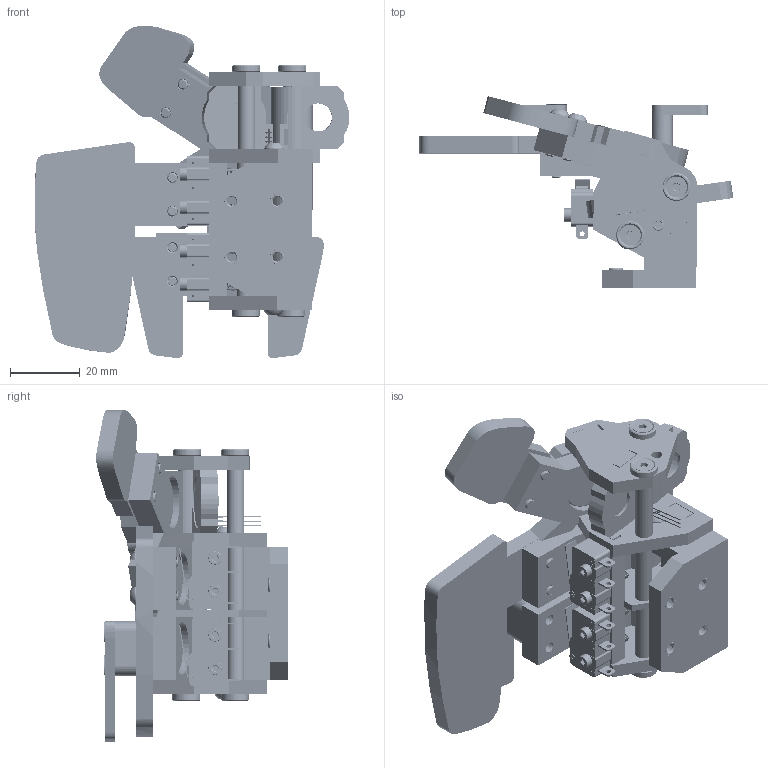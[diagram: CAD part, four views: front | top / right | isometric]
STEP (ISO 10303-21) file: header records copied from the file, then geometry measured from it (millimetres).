
FILE_DESCRIPTION(/* description */ (''),/* implementation_level */ '2;1');
FILE_NAME(/* name */ 'Right Shifter Clutch Assembly.step',/* time_stamp */ '2025-12-14T01:06:27Z',/* author */ (''),/* organization */ (''),/* preprocessor_version */ 'ST-DEVELOPER v20.1',/* originating_system */ 'Autodesk Translation Framework v14.21.0.0',/* authorisation */ '');
FILE_SCHEMA (('AUTOMOTIVE_DESIGN { 1 0 10303 214 3 1 1 }'));
Products named in the file (40): Right Shifter Clutch Assembly; Printed Parts; MPM_ShifterCover; V15_FlatMount; MPM_ShifterDivider; MPM_ShifterMagnetBracket; MPM_ShifterArm; V15_InternalSide; V15_SwitchPlate; MPM_ClutchMagnetBracket; V15_ClutchArm; MPM_ClutchMagnetAndSensorBracket; V15_ClutchCover; Upper Paddle; Upshift Paddle; Clutch Paddle; Hardware; M3x50mm Countersunk Screw; 92125A151_18-8 Stainless Steel Hex Drive Flat Head Screw; M3 18mm Female Standoff; M2x16mm Socket Head Screw; 91292A002_18-8 Stainless Steel Socket Head Screw; M3 Countersunk Washer; M3x16mm Countersunk Screw; 92125A134_18-8 Stainless Steel Hex Drive Flat Head Screw; M3x12mm Round Head Screw; 97763A421_18-8 Stainless Steel Button Head Hex Drive Screws; Heat Inserts; Insert_M3; Insert_M2; Magnets; 15x4mm Neodymium Magnet; Electronics; Microswitch - kwx11 3z b; Microswitch - kwx11 3z b_1; Microswitch-kw11-3z-b Housing; Microswitch-kw11-3z-b Button; kw11-3z-b Microswitch Spring Lever; Microswitch-kw11-3z-b Contact; SS49E
Assembly tree (88 placements, depth 4):
  Right Shifter Clutch Assembly
    Printed Parts
      MPM_ShifterCover
      MPM_ShifterArm  x2
      V15_FlatMount
      MPM_ShifterDivider
      MPM_ShifterMagnetBracket
      V15_InternalSide
      V15_SwitchPlate
      MPM_ClutchMagnetBracket
      V15_ClutchArm
      MPM_ClutchMagnetAndSensorBracket
      V15_ClutchCover
      Upper Paddle
      Upshift Paddle
      Clutch Paddle
    Hardware
      M3 Countersunk Washer  x4
      M3x50mm Countersunk Screw  x2
        92125A151_18-8 Stainless Steel Hex Drive Flat Head Screw
      M3 18mm Female Standoff  x6
      M3x12mm Round Head Screw  x6
        97763A421_18-8 Stainless Steel Button Head Hex Drive Screws
      M2x16mm Socket Head Screw  x4
        91292A002_18-8 Stainless Steel Socket Head Screw
      M3x16mm Countersunk Screw  x4
        92125A134_18-8 Stainless Steel Hex Drive Flat Head Screw
    Heat Inserts
      Insert_M3  x12
      Insert_M2  x4
    Magnets
      15x4mm Neodymium Magnet  x7
    Electronics
      Microswitch - kwx11 3z b
        Microswitch-kw11-3z-b Housing
        Microswitch-kw11-3z-b Button
        kw11-3z-b Microswitch Spring Lever
        Microswitch-kw11-3z-b Contact  x3
      Microswitch - kwx11 3z b_1
        Microswitch-kw11-3z-b Housing
        Microswitch-kw11-3z-b Button
        kw11-3z-b Microswitch Spring Lever
        Microswitch-kw11-3z-b Contact  x3
      SS49E
Bounding box: 90.06 x 54.79 x 95.02 mm (x, y, z)
Volume: 72230.1 mm3; surface area: 63577.1 mm2
Topology: 85 solids, 261 shells, 8342 faces, 23111 edges, 15456 vertices
Faces by surface type: plane 3017, bspline 2840, cylinder 2253, cone 204, torus 22, sphere 6
Full cylindrical faces by diameter (mm): 1.45 x6, 1.48 x144, 2 x149, 2.075 x20, 2.2 x4, 2.35 x440, 2.529 x114, 2.58 x24, 2.8 x4, 3 x440, 3.086 x120, 3.1 x8, 3.2 x4, 3.201 x4, 3.202 x4, 3.203 x15, 3.204 x2, 3.6 x12, 3.8 x16, 4 x12, 4.001 x4, 4.002 x4, 4.185 x4, 4.2 x2, 5 x6, 5.404 x2, 5.405 x2, 5.7 x6, 6 x6, 8 x4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
Entity records: 116882 total; most frequent: CARTESIAN_POINT 60524, ORIENTED_EDGE 12782, DIRECTION 9122, EDGE_CURVE 6391, VERTEX_POINT 4220, LINE 3994, VECTOR 3994, EDGE_LOOP 2605
